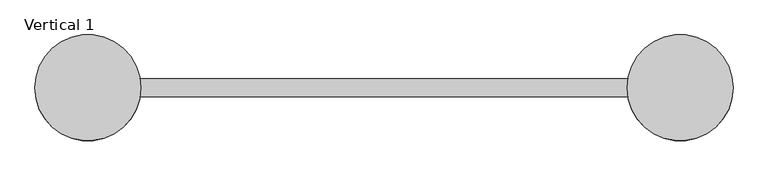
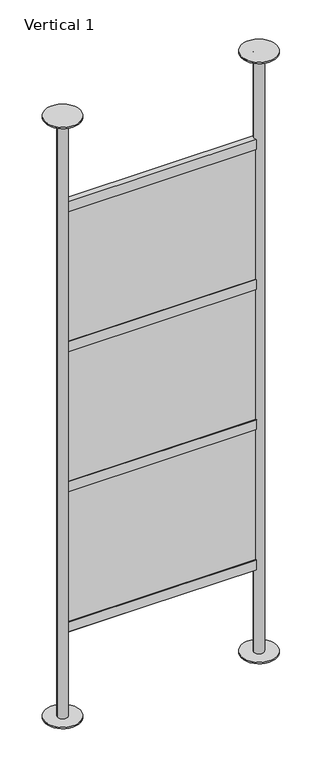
"""IFC4 building model written with IfcOpenShell, lengths in millimetres: furniture geometry, Loft_Wall-Hover-Vertical : Vertical 1."""

from ifc_helpers import new_model, si_unit, point, frame, frame_2d, origin, origin_with_axes, place, context, project, spatial, polyline, circle_curve, trimmed, segment, composite_curve, outline, extrude, source, transform, mapped, element, save
from ifc_brep_helpers import plane_surface, cylinder_surface, advanced_brep


def vertical_1_103afd4f(model_context):
    return source(origin(), model_context, "Body", "SolidModel", [
        advanced_brep(
        [(-446.88125, 0.0, 2749.55), (-404.01875, 0.0, 2749.55), (404.01875, 0.0, 2749.55), (446.88125, 0.0, 2749.55), (-446.88125, 0.0, 6.35), (-404.01875, 0.0, 6.35), (404.01875, 0.0, 6.35), (446.88125, 0.0, 6.35), (-404.01875, 0.0, 392.1125), (-408.187078, -12.7, 392.1125), (-408.187078, -12.7, 437.3245), (-404.01875, 0.0, 437.3245), (-404.01875, 0.0, 1034.3515), (-408.187078, -12.7, 1034.3515), (-408.187078, -12.7, 1079.5635), (-404.01875, 0.0, 1079.5635), (-404.01875, 0.0, 1676.4635), (-408.187078, -12.7, 1676.4635), (-408.187078, -12.7, 1721.6755), (-404.01875, 0.0, 1721.6755), (-404.01875, 0.0, 2318.5755), (-408.187078, -12.7, 2318.5755), (-408.187078, -12.7, 2363.7875), (-404.01875, 0.0, 2363.7875), (-408.187078, 12.7, 2363.7875), (-408.187078, 12.7, 2318.5755), (-408.187078, 12.7, 1721.6755), (-408.187078, 12.7, 1676.4635), (-408.187078, 12.7, 1079.5635), (-408.187078, 12.7, 1034.3515), (-408.187078, 12.7, 437.3245), (-408.187078, 12.7, 392.1125), (404.01875, 0.0, 2363.7875), (408.187078, -12.7, 2363.7875), (408.187078, -12.7, 2318.5755), (404.01875, 0.0, 2318.5755), (404.01875, 0.0, 1721.6755), (408.187078, -12.7, 1721.6755), (408.187078, -12.7, 1676.4635), (404.01875, 0.0, 1676.4635), (404.01875, 0.0, 1079.5635), (408.187078, -12.7, 1079.5635), (408.187078, -12.7, 1034.3515), (404.01875, 0.0, 1034.3515), (404.01875, 0.0, 437.3245), (408.187078, -12.7, 437.3245), (408.187078, -12.7, 392.1125), (404.01875, 0.0, 392.1125), (408.187078, 12.7, 392.1125), (408.187078, 12.7, 437.3245), (408.187078, 12.7, 1034.3515), (408.187078, 12.7, 1079.5635), (408.187078, 12.7, 1676.4635), (408.187078, 12.7, 1721.6755), (408.187078, 12.7, 2318.5755), (408.187078, 12.7, 2363.7875)],
        [
            (0, 1, circle_curve(frame((-425.45, 0.0, 2749.55), z_axis=(0.0, 0.0, 1.0), x_axis=(1.0, 0.0, 0.0)), 21.43125)),
            (1, 0, circle_curve(frame((-425.45, 0.0, 2749.55), z_axis=(0.0, 0.0, 1.0), x_axis=(1.0, 0.0, 0.0)), 21.43125)),
            (2, 3, circle_curve(frame((425.45, 0.0, 2749.55), z_axis=(0.0, 0.0, 1.0), x_axis=(1.0, 0.0, 0.0)), 21.43125)),
            (3, 2, circle_curve(frame((425.45, 0.0, 2749.55), z_axis=(0.0, 0.0, 1.0), x_axis=(1.0, 0.0, 0.0)), 21.43125)),
            (4, 5, circle_curve(frame((-425.45, 0.0, 6.35), z_axis=(0.0, 0.0, -1.0), x_axis=(1.0, 0.0, 0.0)), 21.43125)),
            (5, 4, circle_curve(frame((-425.45, 0.0, 6.35), z_axis=(0.0, 0.0, -1.0), x_axis=(1.0, 0.0, 0.0)), 21.43125)),
            (6, 7, circle_curve(frame((425.45, 0.0, 6.35), z_axis=(0.0, 0.0, -1.0), x_axis=(1.0, 0.0, 0.0)), 21.43125)),
            (7, 6, circle_curve(frame((425.45, 0.0, 6.35), z_axis=(0.0, 0.0, -1.0), x_axis=(1.0, 0.0, 0.0)), 21.43125)),
            (0, 4),
            (5, 8),
            (8, 9, circle_curve(frame((-425.45, 0.0, 392.1125), z_axis=(0.0, 0.0, -1.0), x_axis=(1.0, 0.0, 0.0)), 21.43125)),
            (9, 10),
            (10, 11, circle_curve(frame((-425.45, 0.0, 437.3245), z_axis=(0.0, 0.0, 1.0), x_axis=(1.0, 0.0, 0.0)), 21.43125)),
            (11, 12),
            (12, 13, circle_curve(frame((-425.45, 0.0, 1034.3515), z_axis=(0.0, 0.0, -1.0), x_axis=(1.0, 0.0, 0.0)), 21.43125)),
            (13, 14),
            (14, 15, circle_curve(frame((-425.45, 0.0, 1079.5635), z_axis=(0.0, 0.0, 1.0), x_axis=(1.0, 0.0, 0.0)), 21.43125)),
            (15, 16),
            (16, 17, circle_curve(frame((-425.45, 0.0, 1676.4635), z_axis=(0.0, 0.0, -1.0), x_axis=(1.0, 0.0, 0.0)), 21.43125)),
            (17, 18),
            (18, 19, circle_curve(frame((-425.45, 0.0, 1721.6755), z_axis=(0.0, 0.0, 1.0), x_axis=(1.0, 0.0, 0.0)), 21.43125)),
            (19, 20),
            (20, 21, circle_curve(frame((-425.45, 0.0, 2318.5755), z_axis=(0.0, 0.0, -1.0), x_axis=(1.0, 0.0, 0.0)), 21.43125)),
            (21, 22),
            (22, 23, circle_curve(frame((-425.45, 0.0, 2363.7875), z_axis=(0.0, 0.0, 1.0), x_axis=(1.0, 0.0, 0.0)), 21.43125)),
            (23, 1),
            (23, 24, circle_curve(frame((-425.45, 0.0, 2363.7875), z_axis=(0.0, 0.0, 1.0), x_axis=(1.0, 0.0, 0.0)), 21.43125)),
            (24, 25),
            (25, 20, circle_curve(frame((-425.45, 0.0, 2318.5755), z_axis=(0.0, 0.0, -1.0), x_axis=(1.0, 0.0, 0.0)), 21.43125)),
            (19, 26, circle_curve(frame((-425.45, 0.0, 1721.6755), z_axis=(0.0, 0.0, 1.0), x_axis=(1.0, 0.0, 0.0)), 21.43125)),
            (26, 27),
            (27, 16, circle_curve(frame((-425.45, 0.0, 1676.4635), z_axis=(0.0, 0.0, -1.0), x_axis=(1.0, 0.0, 0.0)), 21.43125)),
            (15, 28, circle_curve(frame((-425.45, 0.0, 1079.5635), z_axis=(0.0, 0.0, 1.0), x_axis=(1.0, 0.0, 0.0)), 21.43125)),
            (28, 29),
            (29, 12, circle_curve(frame((-425.45, 0.0, 1034.3515), z_axis=(0.0, 0.0, -1.0), x_axis=(1.0, 0.0, 0.0)), 21.43125)),
            (11, 30, circle_curve(frame((-425.45, 0.0, 437.3245), z_axis=(0.0, 0.0, 1.0), x_axis=(1.0, 0.0, 0.0)), 21.43125)),
            (30, 31),
            (31, 8, circle_curve(frame((-425.45, 0.0, 392.1125), z_axis=(0.0, 0.0, -1.0), x_axis=(1.0, 0.0, 0.0)), 21.43125)),
            (2, 32),
            (32, 33, circle_curve(frame((425.45, 0.0, 2363.7875), z_axis=(0.0, 0.0, 1.0), x_axis=(1.0, 0.0, 0.0)), 21.43125)),
            (33, 34),
            (34, 35, circle_curve(frame((425.45, 0.0, 2318.5755), z_axis=(0.0, 0.0, -1.0), x_axis=(1.0, 0.0, 0.0)), 21.43125)),
            (35, 36),
            (36, 37, circle_curve(frame((425.45, 0.0, 1721.6755), z_axis=(0.0, 0.0, 1.0), x_axis=(1.0, 0.0, 0.0)), 21.43125)),
            (37, 38),
            (38, 39, circle_curve(frame((425.45, 0.0, 1676.4635), z_axis=(0.0, 0.0, -1.0), x_axis=(1.0, 0.0, 0.0)), 21.43125)),
            (39, 40),
            (40, 41, circle_curve(frame((425.45, 0.0, 1079.5635), z_axis=(0.0, 0.0, 1.0), x_axis=(1.0, 0.0, 0.0)), 21.43125)),
            (41, 42),
            (42, 43, circle_curve(frame((425.45, 0.0, 1034.3515), z_axis=(0.0, 0.0, -1.0), x_axis=(1.0, 0.0, 0.0)), 21.43125)),
            (43, 44),
            (44, 45, circle_curve(frame((425.45, 0.0, 437.3245), z_axis=(0.0, 0.0, 1.0), x_axis=(1.0, 0.0, 0.0)), 21.43125)),
            (45, 46),
            (46, 47, circle_curve(frame((425.45, 0.0, 392.1125), z_axis=(0.0, 0.0, -1.0), x_axis=(1.0, 0.0, 0.0)), 21.43125)),
            (47, 6),
            (7, 3),
            (47, 48, circle_curve(frame((425.45, 0.0, 392.1125), z_axis=(0.0, 0.0, -1.0), x_axis=(1.0, 0.0, 0.0)), 21.43125)),
            (48, 49),
            (49, 44, circle_curve(frame((425.45, 0.0, 437.3245), z_axis=(0.0, 0.0, 1.0), x_axis=(1.0, 0.0, 0.0)), 21.43125)),
            (43, 50, circle_curve(frame((425.45, 0.0, 1034.3515), z_axis=(0.0, 0.0, -1.0), x_axis=(1.0, 0.0, 0.0)), 21.43125)),
            (50, 51),
            (51, 40, circle_curve(frame((425.45, 0.0, 1079.5635), z_axis=(0.0, 0.0, 1.0), x_axis=(1.0, 0.0, 0.0)), 21.43125)),
            (39, 52, circle_curve(frame((425.45, 0.0, 1676.4635), z_axis=(0.0, 0.0, -1.0), x_axis=(1.0, 0.0, 0.0)), 21.43125)),
            (52, 53),
            (53, 36, circle_curve(frame((425.45, 0.0, 1721.6755), z_axis=(0.0, 0.0, 1.0), x_axis=(1.0, 0.0, 0.0)), 21.43125)),
            (35, 54, circle_curve(frame((425.45, 0.0, 2318.5755), z_axis=(0.0, 0.0, -1.0), x_axis=(1.0, 0.0, 0.0)), 21.43125)),
            (54, 55),
            (55, 32, circle_curve(frame((425.45, 0.0, 2363.7875), z_axis=(0.0, 0.0, 1.0), x_axis=(1.0, 0.0, 0.0)), 21.43125)),
            (33, 22),
            (21, 34),
            (54, 25),
            (24, 55),
            (37, 18),
            (17, 38),
            (52, 27),
            (26, 53),
            (41, 14),
            (13, 42),
            (50, 29),
            (28, 51),
            (45, 10),
            (9, 46),
            (48, 31),
            (30, 49),
        ],
        [
            plane_surface(frame((-404.01875, 0.0, 2749.55), z_axis=(0.0, 0.0, 1.0), x_axis=(0.0, 1.0, 0.0))),
            plane_surface(frame((-404.01875, 0.0, 6.35), z_axis=(0.0, 0.0, -1.0), x_axis=(0.0, -1.0, 0.0))),
            cylinder_surface(frame((-425.45, 0.0, 6.35), z_axis=(0.0, 0.0, 1.0), x_axis=(1.0, 0.0, 0.0)), 21.43125),
            cylinder_surface(frame((425.45, 0.0, 0.0), z_axis=(0.0, 0.0, 1.0), x_axis=(1.0, 0.0, 0.0)), 21.43125),
            plane_surface(frame((-409.4420114, -12.7, 2363.7875), z_axis=(0.0, -1.0, 0.0), x_axis=(-1.0, 0.0, 0.0))),
            plane_surface(frame((-409.4420114, 12.7, 2363.7875), z_axis=(0.0, 1.0, 0.0), x_axis=(1.0, 0.0, 0.0))),
            plane_surface(frame((409.4420114, -12.7, 2363.7875), z_axis=(0.0, 0.0, 1.0), x_axis=(0.0, 1.0, 0.0))),
            plane_surface(frame((-409.4420114, -12.7, 2318.5755), z_axis=(0.0, 0.0, -1.0), x_axis=(0.0, 1.0, 0.0))),
            plane_surface(frame((-409.4420114, -12.7, 1721.6755), z_axis=(0.0, -1.0, 0.0), x_axis=(-1.0, 0.0, 0.0))),
            plane_surface(frame((-409.4420114, 12.7, 1721.6755), z_axis=(0.0, 1.0, 0.0), x_axis=(1.0, 0.0, 0.0))),
            plane_surface(frame((409.4420114, -12.7, 1721.6755), z_axis=(0.0, 0.0, 1.0), x_axis=(0.0, 1.0, 0.0))),
            plane_surface(frame((-409.4420114, -12.7, 1676.4635), z_axis=(0.0, 0.0, -1.0), x_axis=(0.0, 1.0, 0.0))),
            plane_surface(frame((-409.4420114, -12.7, 1079.5635), z_axis=(0.0, -1.0, 0.0), x_axis=(-1.0, 0.0, 0.0))),
            plane_surface(frame((-409.4420114, 12.7, 1079.5635), z_axis=(0.0, 1.0, 0.0), x_axis=(1.0, 0.0, 0.0))),
            plane_surface(frame((409.4420114, -12.7, 1079.5635), z_axis=(0.0, 0.0, 1.0), x_axis=(0.0, 1.0, 0.0))),
            plane_surface(frame((-409.4420114, -12.7, 1034.3515), z_axis=(0.0, 0.0, -1.0), x_axis=(0.0, 1.0, 0.0))),
            plane_surface(frame((-409.4420114, -12.7, 437.3245), z_axis=(0.0, -1.0, 0.0), x_axis=(-1.0, 0.0, 0.0))),
            plane_surface(frame((-409.4420114, 12.7, 437.3245), z_axis=(0.0, 1.0, 0.0), x_axis=(1.0, 0.0, 0.0))),
            plane_surface(frame((409.4420114, -12.7, 437.3245), z_axis=(0.0, 0.0, 1.0), x_axis=(0.0, 1.0, 0.0))),
            plane_surface(frame((-409.4420114, -12.7, 392.1125), z_axis=(0.0, 0.0, -1.0), x_axis=(0.0, 1.0, 0.0))),
        ],
        [
            (0, [[1, 2]]),
            (0, [[3, 4]]),
            (1, [[5, 6]]),
            (1, [[7, 8]]),
            (2, [[-1, 9, -6, 10, 11, 12, 13, 14, 15, 16, 17, 18, 19, 20, 21, 22, 23, 24, 25, 26]]),
            (2, [[-2, -26, 27, 28, 29, -22, 30, 31, 32, -18, 33, 34, 35, -14, 36, 37, 38, -10, -5, -9]]),
            (3, [[-3, 39, 40, 41, 42, 43, 44, 45, 46, 47, 48, 49, 50, 51, 52, 53, 54, 55, -8, 56]]),
            (3, [[-4, -56, -7, -55, 57, 58, 59, -51, 60, 61, 62, -47, 63, 64, 65, -43, 66, 67, 68, -39]]),
            (4, [[69, -24, 70, -41]]),
            (5, [[71, -28, 72, -67]]),
            (6, [[-69, -40, -68, -72, -27, -25]]),
            (7, [[-70, -23, -29, -71, -66, -42]]),
            (8, [[73, -20, 74, -45]]),
            (9, [[75, -31, 76, -64]]),
            (10, [[-73, -44, -65, -76, -30, -21]]),
            (11, [[-74, -19, -32, -75, -63, -46]]),
            (12, [[77, -16, 78, -49]]),
            (13, [[79, -34, 80, -61]]),
            (14, [[-77, -48, -62, -80, -33, -17]]),
            (15, [[-78, -15, -35, -79, -60, -50]]),
            (16, [[81, -12, 82, -53]]),
            (17, [[83, -37, 84, -58]]),
            (18, [[-81, -52, -59, -84, -36, -13]]),
            (19, [[-82, -11, -38, -83, -57, -54]]),
        ],
    ),
        extrude(outline(polyline([(404.01875, -9.525), (-404.01875, -9.525), (-404.01875, 9.525), (404.01875, 9.525), (404.01875, -9.525)])), frame((0.0, 0.0, 437.4515), z_axis=(0.0, 0.0, 1.0), x_axis=(1.0, 0.0, 0.0)), (0.0, 0.0, 1.0), 596.9),
        extrude(outline(polyline([(404.01875, -9.525), (-404.01875, -9.525), (-404.01875, 9.525), (404.01875, 9.525), (404.01875, -9.525)])), frame((0.0, 0.0, 1079.5635), z_axis=(0.0, 0.0, 1.0), x_axis=(1.0, 0.0, 0.0)), (0.0, 0.0, 1.0), 596.9),
        extrude(outline(polyline([(404.01875, -9.525), (-404.01875, -9.525), (-404.01875, 9.525), (404.01875, 9.525), (404.01875, -9.525)])), frame((0.0, 0.0, 1721.6755), z_axis=(0.0, 0.0, 1.0), x_axis=(1.0, 0.0, 0.0)), (0.0, 0.0, 1.0), 596.9),
        extrude(outline(polyline([(404.01875, -12.7), (-404.01875, -12.7), (-404.01875, 12.7), (404.01875, 12.7), (404.01875, -12.7)])), frame((0.0, 0.0, 392.1125), z_axis=(0.0, 0.0, 1.0), x_axis=(1.0, 0.0, 0.0)), (0.0, 0.0, 1.0), 45.212),
        extrude(outline(composite_curve([segment(trimmed(circle_curve(frame_2d((-425.45, 0.0)), 76.2), [point((-501.65, 0.0))], [point((-349.25, 0.0))], False, "CARTESIAN"), True, "CONTINUOUS"), segment(trimmed(circle_curve(frame_2d((-425.45, 0.0)), 76.2), [point((-349.25, 0.0))], [point((-501.65, 0.0))], False, "CARTESIAN"), True, "CONTINUOUS")], self_intersect=False)), frame((0.0, 0.0, 2749.55), z_axis=(0.0, 0.0, 1.0), x_axis=(1.0, 0.0, 0.0)), (0.0, 0.0, 1.0), 6.35),
        extrude(outline(composite_curve([segment(trimmed(circle_curve(frame_2d((425.45, 0.0)), 76.2), [point((349.25, 0.0))], [point((501.65, 0.0))], False, "CARTESIAN"), True, "CONTINUOUS"), segment(trimmed(circle_curve(frame_2d((425.45, 0.0)), 76.2), [point((501.65, 0.0))], [point((349.25, 0.0))], False, "CARTESIAN"), True, "CONTINUOUS")], self_intersect=False)), frame((0.0, 0.0, 2749.55), z_axis=(0.0, 0.0, 1.0), x_axis=(1.0, 0.0, 0.0)), (0.0, 0.0, 1.0), 6.35),
        extrude(outline(composite_curve([segment(trimmed(circle_curve(frame_2d((-425.45, 0.0)), 76.2), [point((-501.65, 0.0))], [point((-349.25, 0.0))], False, "CARTESIAN"), True, "CONTINUOUS"), segment(trimmed(circle_curve(frame_2d((-425.45, 0.0)), 76.2), [point((-349.25, 0.0))], [point((-501.65, 0.0))], False, "CARTESIAN"), True, "CONTINUOUS")], self_intersect=False)), origin_with_axes(), (0.0, 0.0, 1.0), 6.35),
        extrude(outline(composite_curve([segment(trimmed(circle_curve(frame_2d((425.45, 0.0)), 76.2), [point((349.25, 0.0))], [point((501.65, 0.0))], False, "CARTESIAN"), True, "CONTINUOUS"), segment(trimmed(circle_curve(frame_2d((425.45, 0.0)), 76.2), [point((501.65, 0.0))], [point((349.25, 0.0))], False, "CARTESIAN"), True, "CONTINUOUS")], self_intersect=False)), origin_with_axes(), (0.0, 0.0, 1.0), 6.35),
    ])


if __name__ == "__main__":
    model = new_model("IFC4")
    model_context = context("Model", 3, world=origin())
    ifc_project = project(units=[si_unit("LENGTHUNIT", "METRE", prefix="MILLI")], contexts=[model_context])
    site = spatial("IfcSite", under=ifc_project)
    building = spatial("IfcBuilding", under=site)
    placement = place(None, origin())
    vertical_1_shape = vertical_1_103afd4f(model_context)
    element("IfcFurniture", 1, ObjectType="Loft_Wall-Hover-Vertical : Vertical 1", at=placement, inside=building, context=model_context, shape_type="MappedRepresentation", body=[
        mapped(vertical_1_shape, transform((0.0, 0.0, 0.0), x_axis=(1.0, 0.0, 0.0), y_axis=(0.0, 1.0, 0.0), z_axis=(0.0, 0.0, 1.0))),
    ])
    save(model, "model.ifc")
